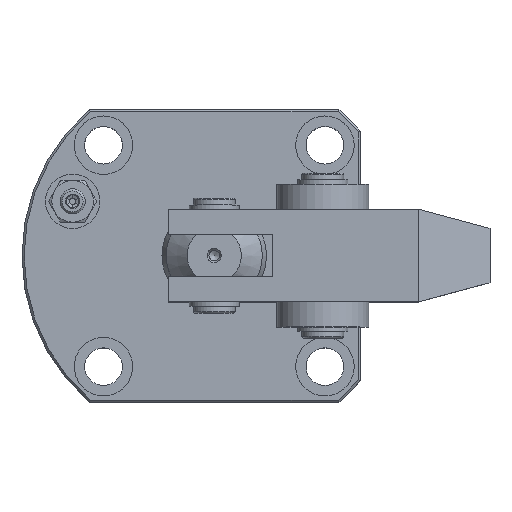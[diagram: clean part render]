
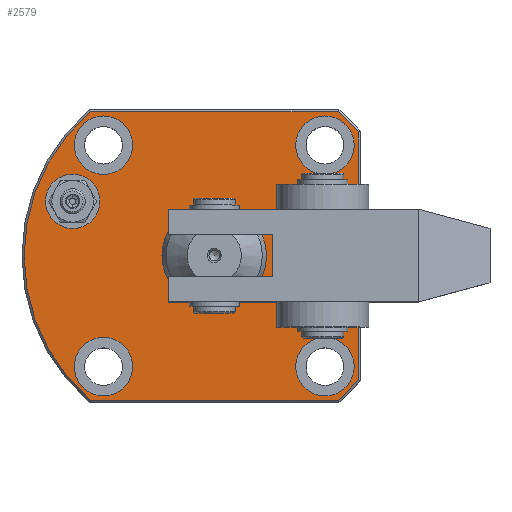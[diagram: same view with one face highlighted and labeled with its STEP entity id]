
A CAD part, top view. The second image highlights one B-rep face of the part: STEP entity #2579.
In plain terms, the highlighted planar face has unit normal (0, 0, 1).
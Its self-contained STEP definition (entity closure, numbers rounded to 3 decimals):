
#186=LINE('',#4058,#311);
#187=LINE('',#4061,#312);
#188=LINE('',#4063,#313);
#189=LINE('',#4065,#314);
#190=LINE('',#4069,#315);
#191=LINE('',#4073,#316);
#192=LINE('',#4077,#317);
#311=VECTOR('',#3307,1000.);
#312=VECTOR('',#3308,1000.);
#313=VECTOR('',#3309,1000.);
#314=VECTOR('',#3310,1000.);
#315=VECTOR('',#3313,1000.);
#316=VECTOR('',#3316,1000.);
#317=VECTOR('',#3319,1000.);
#459=PLANE('',#2885);
#620=ORIENTED_EDGE('',*,*,#1191,.T.);
#621=ORIENTED_EDGE('',*,*,#1247,.F.);
#622=ORIENTED_EDGE('',*,*,#1248,.T.);
#623=ORIENTED_EDGE('',*,*,#1249,.T.);
#624=ORIENTED_EDGE('',*,*,#1250,.T.);
#625=ORIENTED_EDGE('',*,*,#1251,.T.);
#626=ORIENTED_EDGE('',*,*,#1252,.T.);
#627=ORIENTED_EDGE('',*,*,#1253,.T.);
#628=ORIENTED_EDGE('',*,*,#1254,.T.);
#629=ORIENTED_EDGE('',*,*,#1255,.T.);
#630=ORIENTED_EDGE('',*,*,#1256,.T.);
#631=ORIENTED_EDGE('',*,*,#1257,.T.);
#632=ORIENTED_EDGE('',*,*,#1246,.F.);
#633=ORIENTED_EDGE('',*,*,#1245,.F.);
#634=ORIENTED_EDGE('',*,*,#1244,.F.);
#635=ORIENTED_EDGE('',*,*,#1243,.F.);
#1191=EDGE_CURVE('',#1521,#1521,#1765,.T.);
#1243=EDGE_CURVE('',#1567,#1567,#1802,.T.);
#1244=EDGE_CURVE('',#1568,#1568,#1803,.T.);
#1245=EDGE_CURVE('',#1569,#1569,#1804,.T.);
#1246=EDGE_CURVE('',#1570,#1570,#1805,.T.);
#1247=EDGE_CURVE('',#1571,#1572,#186,.T.);
#1248=EDGE_CURVE('',#1571,#1573,#187,.T.);
#1249=EDGE_CURVE('',#1573,#1574,#188,.T.);
#1250=EDGE_CURVE('',#1574,#1575,#189,.T.);
#1251=EDGE_CURVE('',#1575,#1576,#1806,.T.);
#1252=EDGE_CURVE('',#1576,#1577,#190,.T.);
#1253=EDGE_CURVE('',#1577,#1578,#1807,.T.);
#1254=EDGE_CURVE('',#1578,#1579,#191,.T.);
#1255=EDGE_CURVE('',#1579,#1580,#1808,.T.);
#1256=EDGE_CURVE('',#1580,#1572,#192,.T.);
#1257=EDGE_CURVE('',#1581,#1581,#1809,.F.);
#1521=VERTEX_POINT('',#3918);
#1567=VERTEX_POINT('',#4047);
#1568=VERTEX_POINT('',#4050);
#1569=VERTEX_POINT('',#4053);
#1570=VERTEX_POINT('',#4056);
#1571=VERTEX_POINT('',#4059);
#1572=VERTEX_POINT('',#4060);
#1573=VERTEX_POINT('',#4062);
#1574=VERTEX_POINT('',#4064);
#1575=VERTEX_POINT('',#4066);
#1576=VERTEX_POINT('',#4068);
#1577=VERTEX_POINT('',#4070);
#1578=VERTEX_POINT('',#4072);
#1579=VERTEX_POINT('',#4074);
#1580=VERTEX_POINT('',#4076);
#1581=VERTEX_POINT('',#4079);
#1765=CIRCLE('',#2810,12.5);
#1802=CIRCLE('',#2878,7.);
#1803=CIRCLE('',#2880,7.);
#1804=CIRCLE('',#2882,7.);
#1805=CIRCLE('',#2884,7.);
#1806=CIRCLE('',#2886,45.5);
#1807=CIRCLE('',#2887,45.5);
#1808=CIRCLE('',#2888,45.5);
#1809=CIRCLE('',#2889,6.5);
#1972=EDGE_LOOP('',(#620));
#1973=EDGE_LOOP('',(#621,#622,#623,#624,#625,#626,#627,#628,#629,#630));
#1974=EDGE_LOOP('',(#631));
#1975=EDGE_LOOP('',(#632));
#1976=EDGE_LOOP('',(#633));
#1977=EDGE_LOOP('',(#634));
#1978=EDGE_LOOP('',(#635));
#2263=FACE_BOUND('',#1972,.T.);
#2264=FACE_BOUND('',#1973,.T.);
#2265=FACE_BOUND('',#1974,.T.);
#2266=FACE_BOUND('',#1975,.T.);
#2267=FACE_BOUND('',#1976,.T.);
#2268=FACE_BOUND('',#1977,.T.);
#2269=FACE_BOUND('',#1978,.T.);
#2579=ADVANCED_FACE('',(#2263,#2264,#2265,#2266,#2267,#2268,#2269),#459,
 .T.);
#2810=AXIS2_PLACEMENT_3D('',#3917,#3140,#3141);
#2878=AXIS2_PLACEMENT_3D('',#4046,#3291,#3292);
#2880=AXIS2_PLACEMENT_3D('',#4049,#3295,#3296);
#2882=AXIS2_PLACEMENT_3D('',#4052,#3299,#3300);
#2884=AXIS2_PLACEMENT_3D('',#4055,#3303,#3304);
#2885=AXIS2_PLACEMENT_3D('',#4057,#3305,#3306);
#2886=AXIS2_PLACEMENT_3D('',#4067,#3311,#3312);
#2887=AXIS2_PLACEMENT_3D('',#4071,#3314,#3315);
#2888=AXIS2_PLACEMENT_3D('',#4075,#3317,#3318);
#2889=AXIS2_PLACEMENT_3D('',#4078,#3320,#3321);
#3140=DIRECTION('',(0.,0.,-1.));
#3141=DIRECTION('',(0.,-1.,0.));
#3291=DIRECTION('',(0.,0.,1.));
#3292=DIRECTION('',(1.,0.,0.));
#3295=DIRECTION('',(0.,0.,1.));
#3296=DIRECTION('',(1.,0.,0.));
#3299=DIRECTION('',(0.,0.,1.));
#3300=DIRECTION('',(1.,0.,0.));
#3303=DIRECTION('',(0.,0.,1.));
#3304=DIRECTION('',(1.,0.,0.));
#3305=DIRECTION('',(0.,0.,1.));
#3306=DIRECTION('',(0.,-1.,0.));
#3307=DIRECTION('',(1.,0.,0.));
#3308=DIRECTION('',(0.,1.,0.));
#3309=DIRECTION('',(1.,0.,0.));
#3310=DIRECTION('',(0.,1.,0.));
#3311=DIRECTION('',(0.,0.,1.));
#3312=DIRECTION('',(0.,-1.,0.));
#3313=DIRECTION('',(-1.,0.,0.));
#3314=DIRECTION('',(0.,0.,1.));
#3315=DIRECTION('',(0.,-1.,0.));
#3316=DIRECTION('',(1.,0.,0.));
#3317=DIRECTION('',(0.,0.,1.));
#3318=DIRECTION('',(0.,-1.,0.));
#3319=DIRECTION('',(0.,1.,0.));
#3320=DIRECTION('',(0.,0.,1.));
#3321=DIRECTION('',(0.,-1.,0.));
#3917=CARTESIAN_POINT('',(-10.75,36.5,17.9));
#3918=CARTESIAN_POINT('',(-10.75,24.,17.9));
#4046=CARTESIAN_POINT('',(-37.25,63.,17.9));
#4047=CARTESIAN_POINT('',(-30.25,63.,17.9));
#4049=CARTESIAN_POINT('',(15.75,63.,17.9));
#4050=CARTESIAN_POINT('',(22.75,63.,17.9));
#4052=CARTESIAN_POINT('',(15.75,10.,17.9));
#4053=CARTESIAN_POINT('',(22.75,10.,17.9));
#4055=CARTESIAN_POINT('',(-37.25,10.,17.9));
#4056=CARTESIAN_POINT('',(-30.25,10.,17.9));
#4057=CARTESIAN_POINT('',(-10.75,36.5,17.9));
#4058=CARTESIAN_POINT('',(5.25,25.4,17.9));
#4059=CARTESIAN_POINT('',(5.25,25.4,17.9));
#4060=CARTESIAN_POINT('',(23.75,25.4,17.9));
#4061=CARTESIAN_POINT('',(5.25,25.4,17.9));
#4062=CARTESIAN_POINT('',(5.25,47.6,17.9));
#4063=CARTESIAN_POINT('',(5.25,47.6,17.9));
#4064=CARTESIAN_POINT('',(23.75,47.6,17.9));
#4065=CARTESIAN_POINT('',(23.75,36.5,17.9));
#4066=CARTESIAN_POINT('',(23.75,66.165,17.9));
#4067=CARTESIAN_POINT('',(-10.75,36.5,17.9));
#4068=CARTESIAN_POINT('',(18.915,71.,17.9));
#4069=CARTESIAN_POINT('',(-10.75,71.,17.9));
#4070=CARTESIAN_POINT('',(-40.415,71.,17.9));
#4071=CARTESIAN_POINT('',(-10.75,36.5,17.9));
#4072=CARTESIAN_POINT('',(-40.415,2.,17.9));
#4073=CARTESIAN_POINT('',(-10.75,2.,17.9));
#4074=CARTESIAN_POINT('',(18.915,2.,17.9));
#4075=CARTESIAN_POINT('',(-10.75,36.5,17.9));
#4076=CARTESIAN_POINT('',(23.75,6.835,17.9));
#4077=CARTESIAN_POINT('',(23.75,36.5,17.9));
#4078=CARTESIAN_POINT('',(-44.62,49.56,17.9));
#4079=CARTESIAN_POINT('',(-44.62,43.06,17.9));
